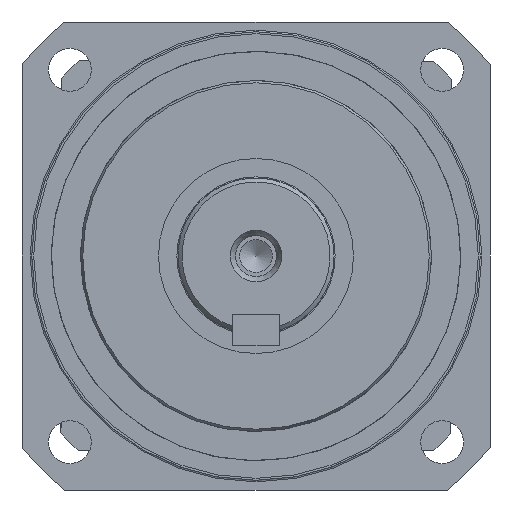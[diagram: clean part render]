
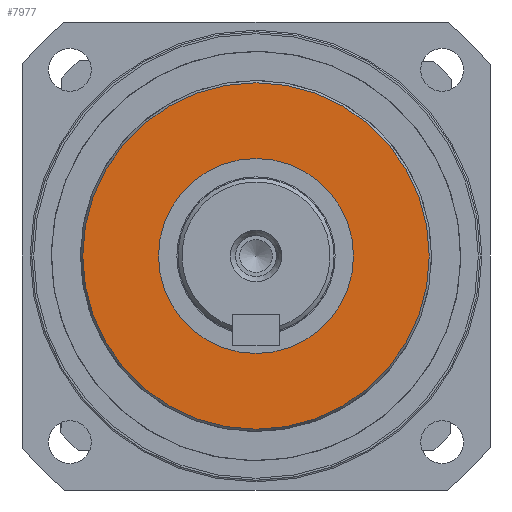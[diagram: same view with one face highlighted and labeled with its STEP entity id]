
A CAD part, left-side view. The second image highlights one B-rep face of the part: STEP entity #7977.
In plain terms, the highlighted planar face has unit normal (-1, 0, 0).
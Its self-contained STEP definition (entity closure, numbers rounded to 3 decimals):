
#703=FACE_BOUND('',#2172,.T.);
#1506=PLANE('',#8971);
#1695=FACE_OUTER_BOUND('',#2171,.T.);
#2171=EDGE_LOOP('',(#5906));
#2172=EDGE_LOOP('',(#5907,#5908));
#2806=CIRCLE('',#8967,44.423);
#2809=CIRCLE('',#8972,25.);
#2810=CIRCLE('',#8973,25.);
#3616=VERTEX_POINT('',#13340);
#3619=VERTEX_POINT('',#13350);
#3620=VERTEX_POINT('',#13351);
#4580=EDGE_CURVE('',#3616,#3616,#2806,.T.);
#4584=EDGE_CURVE('',#3619,#3620,#2809,.T.);
#4585=EDGE_CURVE('',#3620,#3619,#2810,.T.);
#5906=ORIENTED_EDGE('',*,*,#4580,.F.);
#5907=ORIENTED_EDGE('',*,*,#4584,.T.);
#5908=ORIENTED_EDGE('',*,*,#4585,.T.);
#7977=ADVANCED_FACE('',(#1695,#703),#1506,.T.);
#8967=AXIS2_PLACEMENT_3D('',#13342,#10471,#10472);
#8971=AXIS2_PLACEMENT_3D('',#13349,#10480,#10481);
#8972=AXIS2_PLACEMENT_3D('',#13352,#10482,#10483);
#8973=AXIS2_PLACEMENT_3D('',#13353,#10484,#10485);
#10471=DIRECTION('center_axis',(1.,0.,0.));
#10472=DIRECTION('ref_axis',(0.,-1.,0.));
#10480=DIRECTION('center_axis',(-1.,0.,0.));
#10481=DIRECTION('ref_axis',(0.,0.,1.));
#10482=DIRECTION('center_axis',(1.,0.,0.));
#10483=DIRECTION('ref_axis',(0.,0.,-1.));
#10484=DIRECTION('center_axis',(1.,0.,0.));
#10485=DIRECTION('ref_axis',(0.,0.,-1.));
#13340=CARTESIAN_POINT('',(0.,44.423,0.));
#13342=CARTESIAN_POINT('Origin',(0.,0.,0.));
#13349=CARTESIAN_POINT('Origin',(0.,45.,0.));
#13350=CARTESIAN_POINT('',(0.,25.,0.));
#13351=CARTESIAN_POINT('',(0.,-25.,0.));
#13352=CARTESIAN_POINT('Origin',(0.,0.,0.));
#13353=CARTESIAN_POINT('Origin',(0.,0.,0.));
